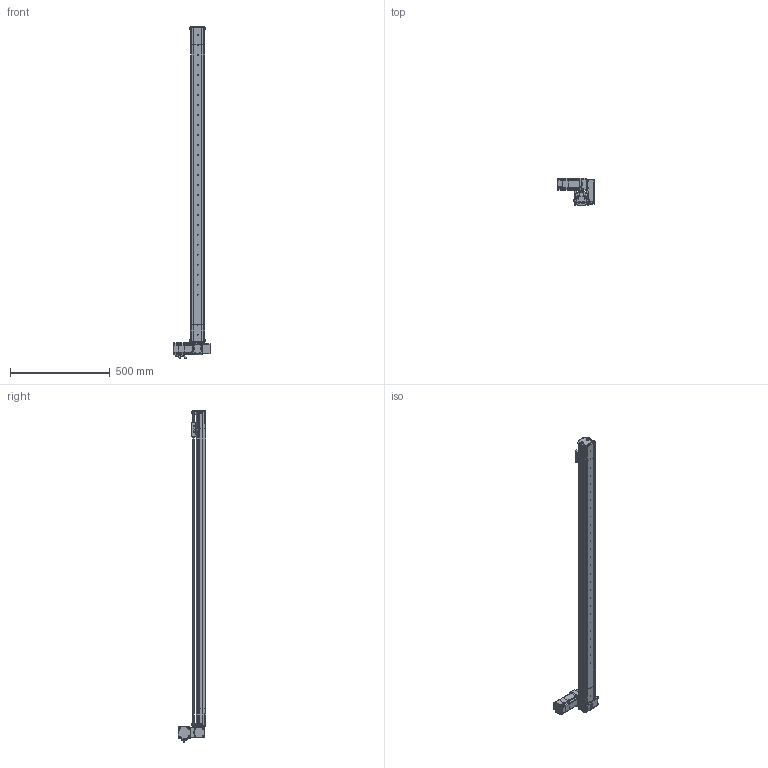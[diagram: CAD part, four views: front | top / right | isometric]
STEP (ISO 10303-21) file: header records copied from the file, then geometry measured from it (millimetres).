
FILE_DESCRIPTION (( 'STEP AP214' ), '1' );
FILE_NAME ('S07 TBN LT S1400.STEP', '2010-06-29T12:07:19', ( 'Conseil Régional Haute-Normandie' ), ( 'Conseil Régional Haute-Normandie' ), 'SwSTEP 2.0', 'SolidWorks 2010', '' );
FILE_SCHEMA (( 'AUTOMOTIVE_DESIGN' ));
Length unit declared in the file: millimetre
Products named in the file (41): Pièce5^S07 LT(146); VisM3_Default; Conecteur2 60BLDC_Default; Cvis M5 L30_Default; Conecteur 60BLDC_Default; Axe 60BLDC_Default; P4_Default; P3 90A_Default; P2 90A_Default; P1_Default; renvoi LT_Default; Plaque racord_Default; Couroie t皻e_Default; GMB 60 90 310_Default; vis M5 L16_Default; Chariot; guide; Vis M5 L16-2_Default; Poulie_Default; T皻e de poulie_Default; CHariot_Default; couroie tail_Default; vis M5 L12_Default; couvercle tail TB; plaque de bout_Default; corp tail TB_Default; S07 TB tail (78)_Default; S07 TBN LT S1400; Couroie  course 1400_Default; Corp S07 course 1400_Default; Course C L1400_Default; corp moteur TB(146)_Default; S07 LT(146)_Default; couvercle S07 course 1400 ; cache t皻e axe_Default; couvercle moteur S07 TB; plaque de bout LT_Default; vis M5 L5_Default; cache t皻e_Default; Poulie head_Default
Assembly tree (80 placements, depth 4):
  Pièce5^S07 LT(146)
  S07 TBN LT S1400
    S07 TB tail (78)_Default
      vis M5 L12_Default  x10
      plaque de bout_Default
      corp tail TB_Default
      couroie tail_Default
      Poulie_Default
        T皻e de poulie_Default
        Poulie_Default
      couvercle tail TB
    CHariot_Default
      vis M5 L16_Default  x2
      Chariot
      guide
    S07 LT(146)_Default
      vis M5 L12_Default  x6
      GMB 60 90 310_Default
        VisM3_Default  x12
        P3 90A_Default
        Conecteur2 60BLDC_Default
        Axe 60BLDC_Default
        P2 90A_Default
        P1_Default
        P4_Default
        Conecteur 60BLDC_Default
      vis M5 L5_Default  x6
      Vis M5 L16-2_Default  x8
      couvercle moteur S07 TB
      plaque de bout LT_Default
      Poulie head_Default
      renvoi LT_Default
      Couroie t皻e_Default
      cache t皻e axe_Default
      corp moteur TB(146)_Default
      Cvis M5 L30_Default  x2
      cache t皻e_Default  x2
      Plaque racord_Default
    Course C L1400_Default
      Corp S07 course 1400_Default
      couvercle S07 course 1400 
      Couroie  course 1400_Default
Bounding box: 190.2 x 139.5 x 1662 mm (x, y, z)
Volume: 3282941.7 mm3; surface area: 1427306.7 mm2
Topology: 102 solids, 102 shells, 3950 faces, 9822 edges, 6345 vertices
Faces by surface type: plane 2239, cylinder 781, bspline 677, cone 125, torus 124, sphere 4
Entity records: 167921 total; most frequent: CARTESIAN_POINT 75311, ORIENTED_EDGE 15556, DIRECTION 12439, EDGE_CURVE 7778, VERTEX_POINT 5133, LINE 5061, VECTOR 5061, AXIS2_PLACEMENT_3D 3689
